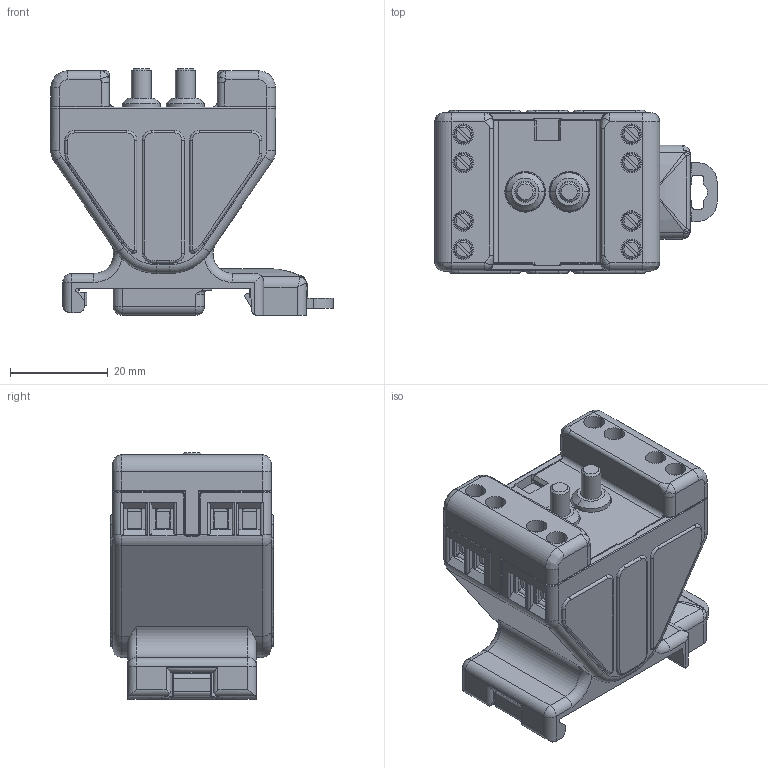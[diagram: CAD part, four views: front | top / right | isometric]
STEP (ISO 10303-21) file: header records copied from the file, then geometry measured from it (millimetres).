
FILE_DESCRIPTION((''),'2;1');
FILE_NAME('BODEN-SCHALTER_STEP_SW0001','2009-01-19T',('beil'),(''),'PRO/ENGINEER BY PARAMETRIC TECHNOLOGY CORPORATION, 2007160','PRO/ENGINEER BY PARAMETRIC TECHNOLOGY CORPORATION, 2007160','');
FILE_SCHEMA(('CONFIG_CONTROL_DESIGN'));
Length unit declared in the file: millimetre
Products named in the file (1): BODEN-SCHALTER_STEP_SW0001
Bounding box: 57.65 x 33.3 x 50.3 mm (x, y, z)
Volume: 42413.9 mm3; surface area: 25945 mm2
Topology: 2 solids, 2 shells, 2079 faces, 5586 edges, 3539 vertices
Faces by surface type: plane 1339, cylinder 516, torus 130, cone 40, bspline 36, sphere 18
Entity records: 66790 total; most frequent: CARTESIAN_POINT 14502, ORIENTED_EDGE 11164, DIRECTION 10514, EDGE_CURVE 5582, VECTOR 4012, LINE 4012, VERTEX_POINT 3539, AXIS2_PLACEMENT_3D 3251
